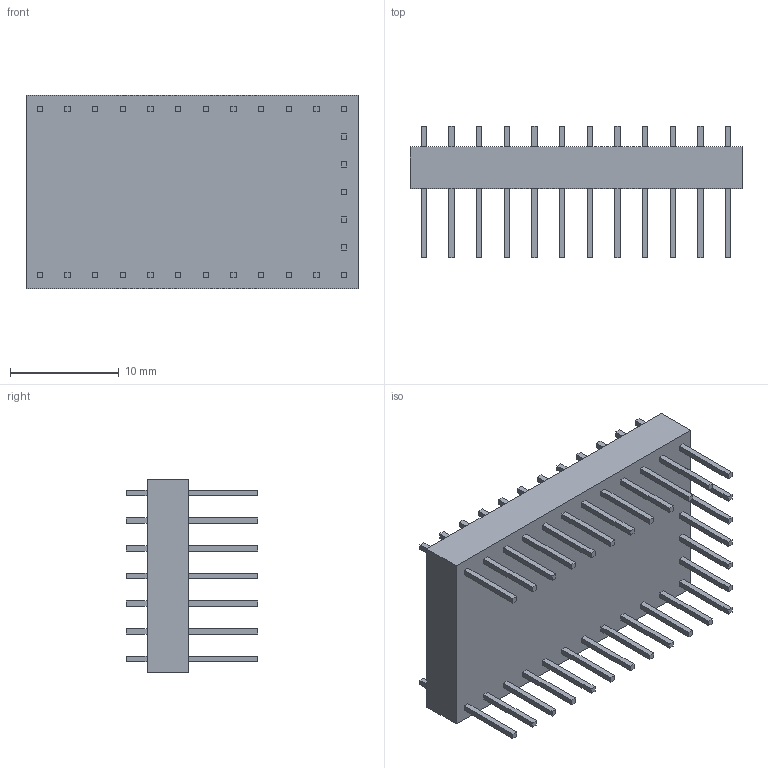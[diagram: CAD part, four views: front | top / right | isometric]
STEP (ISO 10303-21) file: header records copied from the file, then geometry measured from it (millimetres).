
FILE_DESCRIPTION (( 'STEP AP203' ), '1' );
FILE_NAME ('Teensy.step', '2015-03-14T23:36:43', ( '' ), ( '' ), 'SwSTEP 2.0', 'SolidWorks 2013', '' );
FILE_SCHEMA (( 'CONFIG_CONTROL_DESIGN' ));
Length unit declared in the file: inch
Products named in the file (1): Teensy
Bounding box: 30.48 x 12.06 x 17.78 mm (x, y, z)
Volume: 2126.5 mm3; surface area: 1938.1 mm2
Topology: 1 solids, 1 shells, 296 faces, 708 edges, 472 vertices
Faces by surface type: plane 296
Entity records: 8471 total; most frequent: CARTESIAN_POINT 1477, ORIENTED_EDGE 1416, DIRECTION 1302, LINE 708, EDGE_CURVE 708, VECTOR 708, VERTEX_POINT 472, EDGE_LOOP 354
